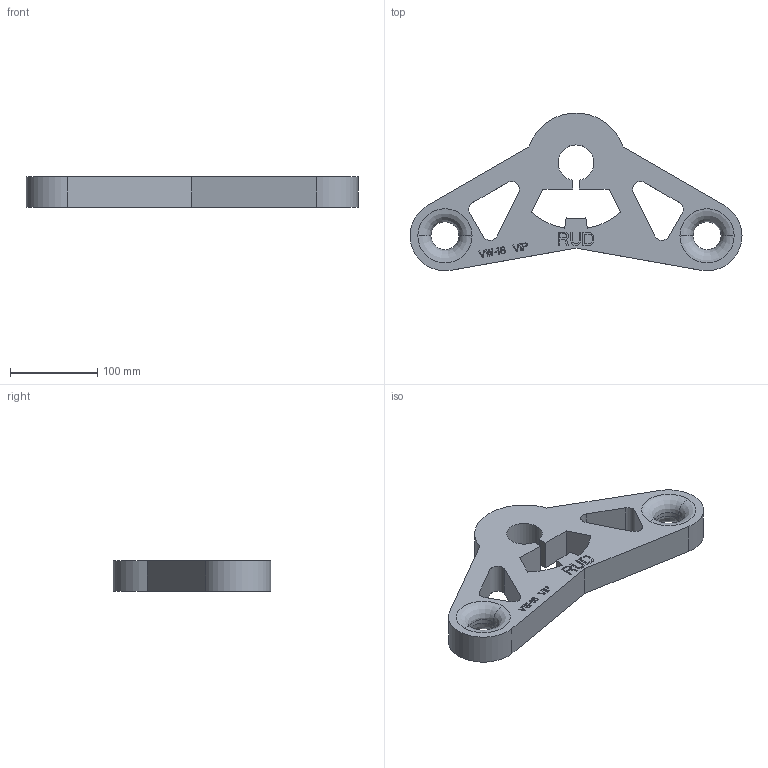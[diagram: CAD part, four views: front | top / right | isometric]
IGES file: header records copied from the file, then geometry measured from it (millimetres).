
Start section:  PTC IGES file: 001-m34674-p-1.igs
Global section: file name: 001-m34674-p-1.igs; native system: Pro/ENGINEER by Parametric Technology Corporation; preprocessor: 2011490; author: anja.joas; organization: Unknown; date: 20190124.081007; units: millimetre
Bounding box: 380 x 180.3 x 35 mm (x, y, z)
Volume: 1055957.2 mm3; surface area: 126280.4 mm2
Topology: 1 solids, 1 shells, 264 faces, 733 edges, 486 vertices
Faces by surface type: bspline 239, revolution 25
